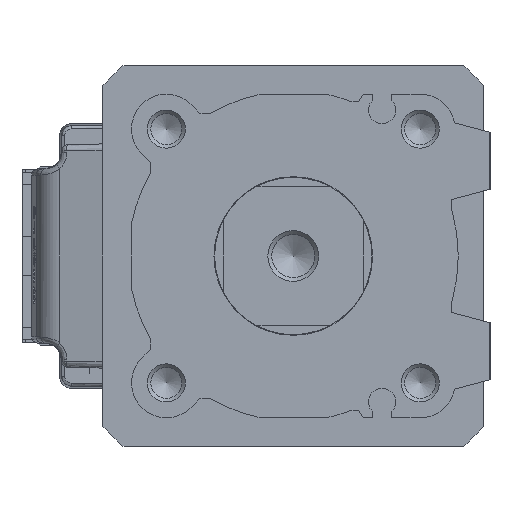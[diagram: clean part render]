
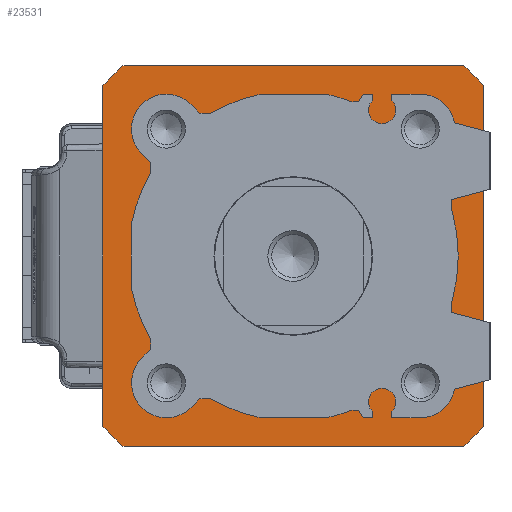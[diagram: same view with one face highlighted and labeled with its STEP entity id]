
A CAD part, left-side view. The second image highlights one B-rep face of the part: STEP entity #23531.
In plain terms, the highlighted planar face has unit normal (-1, 0, 0) as drawn and (0, 0, 1) by its records, which use the part's own axes.
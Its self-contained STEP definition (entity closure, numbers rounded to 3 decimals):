
#1104 = DIRECTION ( 'NONE',  ( 0., 0., 1. ) ) ;
#1161 = DIRECTION ( 'NONE',  ( 1., 0., 0. ) ) ;
#1256 = DIRECTION ( 'NONE',  ( 1., 0., 0. ) ) ;
#4170 = CARTESIAN_POINT ( 'NONE',  ( -30., 26.834, 0. ) ) ;
#4706 = FACE_BOUND ( 'NONE', #5577, .T. ) ;
#5032 = DIRECTION ( 'NONE',  ( 0., 0., 1. ) ) ;
#5116 = CIRCLE ( 'NONE', #15747, 15.6 ) ;
#5411 = ORIENTED_EDGE ( 'NONE', *, *, #34277, .T. ) ;
#5577 = EDGE_LOOP ( 'NONE', ( #36682, #23547 ) ) ;
#5870 = DIRECTION ( 'NONE',  ( 0., 0., 1. ) ) ;
#6770 = VECTOR ( 'NONE', #35639, 1000. ) ;
#7108 = EDGE_CURVE ( 'NONE', #40174, #49740, #45005, .T. ) ;
#7577 = EDGE_CURVE ( 'NONE', #36706, #7591, #41060, .T. ) ;
#7591 = VERTEX_POINT ( 'NONE', #41312 ) ;
#7928 = EDGE_CURVE ( 'NONE', #18822, #43589, #38688, .T. ) ;
#8224 = DIRECTION ( 'NONE',  ( 1., 0., 0. ) ) ;
#8762 = CIRCLE ( 'NONE', #43876, 40.25 ) ;
#9995 = ORIENTED_EDGE ( 'NONE', *, *, #42149, .T. ) ;
#10628 = DIRECTION ( 'NONE',  ( 1., 0., 0. ) ) ;
#10823 = CIRCLE ( 'NONE', #23920, 15.6 ) ;
#12026 = CARTESIAN_POINT ( 'NONE',  ( 0., 0., 0. ) ) ;
#12987 = VERTEX_POINT ( 'NONE', #26274 ) ;
#13532 = ORIENTED_EDGE ( 'NONE', *, *, #7928, .T. ) ;
#15747 = AXIS2_PLACEMENT_3D ( 'NONE', #40043, #5032, #20628 ) ;
#16328 = AXIS2_PLACEMENT_3D ( 'NONE', #24222, #47708, #1161 ) ;
#16464 = CARTESIAN_POINT ( 'NONE',  ( 0., 0., 0. ) ) ;
#18822 = VERTEX_POINT ( 'NONE', #39384 ) ;
#20224 = CIRCLE ( 'NONE', #24337, 40.25 ) ;
#20628 = DIRECTION ( 'NONE',  ( 1., 0., 0. ) ) ;
#20681 = CARTESIAN_POINT ( 'NONE',  ( 0., 0., 0. ) ) ;
#21033 = EDGE_CURVE ( 'NONE', #7591, #40174, #8762, .T. ) ;
#21490 = DIRECTION ( 'NONE',  ( 1., 0., 0. ) ) ;
#22916 = CARTESIAN_POINT ( 'NONE',  ( -26.834, -30., 0. ) ) ;
#23496 = VERTEX_POINT ( 'NONE', #22916 ) ;
#23531 = ADVANCED_FACE ( 'NONE', ( #4706, #31841 ), #36136, .T. ) ;
#23547 = ORIENTED_EDGE ( 'NONE', *, *, #35725, .F. ) ;
#23809 = DIRECTION ( 'NONE',  ( 1., 0., 0. ) ) ;
#23920 = AXIS2_PLACEMENT_3D ( 'NONE', #12026, #27634, #23809 ) ;
#24222 = CARTESIAN_POINT ( 'NONE',  ( 0., 0., 0. ) ) ;
#24309 = VECTOR ( 'NONE', #10628, 1000. ) ;
#24337 = AXIS2_PLACEMENT_3D ( 'NONE', #20681, #32979, #1256 ) ;
#25237 = EDGE_CURVE ( 'NONE', #45304, #12987, #10823, .T. ) ;
#25780 = DIRECTION ( 'NONE',  ( 0., 1., 0. ) ) ;
#26027 = CARTESIAN_POINT ( 'NONE',  ( 26.834, 30., 0. ) ) ;
#26274 = CARTESIAN_POINT ( 'NONE',  ( 15.6, 0., 0. ) ) ;
#26914 = DIRECTION ( 'NONE',  ( 0., 0., 1. ) ) ;
#27138 = ORIENTED_EDGE ( 'NONE', *, *, #29613, .T. ) ;
#27634 = DIRECTION ( 'NONE',  ( 0., 0., 1. ) ) ;
#28569 = CIRCLE ( 'NONE', #16328, 40.25 ) ;
#28726 = ORIENTED_EDGE ( 'NONE', *, *, #7577, .T. ) ;
#29613 = EDGE_CURVE ( 'NONE', #49740, #18822, #20224, .T. ) ;
#30861 = CARTESIAN_POINT ( 'NONE',  ( -26.834, -30., 0. ) ) ;
#31162 = CARTESIAN_POINT ( 'NONE',  ( -30., -26.834, 0. ) ) ;
#31841 = FACE_OUTER_BOUND ( 'NONE', #48885, .T. ) ;
#32979 = DIRECTION ( 'NONE',  ( 0., 0., 1. ) ) ;
#33419 = AXIS2_PLACEMENT_3D ( 'NONE', #16464, #1104, #39708 ) ;
#34277 = EDGE_CURVE ( 'NONE', #23496, #48447, #50291, .T. ) ;
#35639 = DIRECTION ( 'NONE',  ( 0., -1., 0. ) ) ;
#35725 = EDGE_CURVE ( 'NONE', #12987, #45304, #5116, .T. ) ;
#36136 = PLANE ( 'NONE',  #33419 ) ;
#36682 = ORIENTED_EDGE ( 'NONE', *, *, #25237, .F. ) ;
#36706 = VERTEX_POINT ( 'NONE', #48921 ) ;
#37239 = CIRCLE ( 'NONE', #40483, 40.25 ) ;
#37820 = DIRECTION ( 'NONE',  ( -1., 0., 0. ) ) ;
#37839 = ORIENTED_EDGE ( 'NONE', *, *, #46465, .T. ) ;
#38096 = ORIENTED_EDGE ( 'NONE', *, *, #21033, .T. ) ;
#38688 = LINE ( 'NONE', #4170, #6770 ) ;
#39252 = ORIENTED_EDGE ( 'NONE', *, *, #7108, .T. ) ;
#39384 = CARTESIAN_POINT ( 'NONE',  ( -30., 26.834, 0. ) ) ;
#39708 = DIRECTION ( 'NONE',  ( 1., 0., 0. ) ) ;
#40043 = CARTESIAN_POINT ( 'NONE',  ( 0., 0., 0. ) ) ;
#40174 = VERTEX_POINT ( 'NONE', #26027 ) ;
#40312 = CARTESIAN_POINT ( 'NONE',  ( -15.6, 0., 0. ) ) ;
#40483 = AXIS2_PLACEMENT_3D ( 'NONE', #43254, #26914, #8224 ) ;
#41060 = LINE ( 'NONE', #45438, #45594 ) ;
#41312 = CARTESIAN_POINT ( 'NONE',  ( 30., 26.834, 0. ) ) ;
#41606 = CARTESIAN_POINT ( 'NONE',  ( -26.834, 30., 0. ) ) ;
#42149 = EDGE_CURVE ( 'NONE', #43589, #23496, #37239, .T. ) ;
#43254 = CARTESIAN_POINT ( 'NONE',  ( 0., 0., 0. ) ) ;
#43589 = VERTEX_POINT ( 'NONE', #31162 ) ;
#43876 = AXIS2_PLACEMENT_3D ( 'NONE', #48613, #5870, #21490 ) ;
#45005 = LINE ( 'NONE', #49348, #48006 ) ;
#45304 = VERTEX_POINT ( 'NONE', #40312 ) ;
#45438 = CARTESIAN_POINT ( 'NONE',  ( 30., -26.834, 0. ) ) ;
#45594 = VECTOR ( 'NONE', #25780, 1000. ) ;
#46465 = EDGE_CURVE ( 'NONE', #48447, #36706, #28569, .T. ) ;
#47294 = CARTESIAN_POINT ( 'NONE',  ( 26.834, -30., 0. ) ) ;
#47708 = DIRECTION ( 'NONE',  ( 0., 0., 1. ) ) ;
#48006 = VECTOR ( 'NONE', #37820, 1000. ) ;
#48447 = VERTEX_POINT ( 'NONE', #47294 ) ;
#48613 = CARTESIAN_POINT ( 'NONE',  ( 0., 0., 0. ) ) ;
#48885 = EDGE_LOOP ( 'NONE', ( #27138, #13532, #9995, #5411, #37839, #28726, #38096, #39252 ) ) ;
#48921 = CARTESIAN_POINT ( 'NONE',  ( 30., -26.834, 0. ) ) ;
#49348 = CARTESIAN_POINT ( 'NONE',  ( 26.834, 30., 0. ) ) ;
#49740 = VERTEX_POINT ( 'NONE', #41606 ) ;
#50291 = LINE ( 'NONE', #30861, #24309 ) ;
